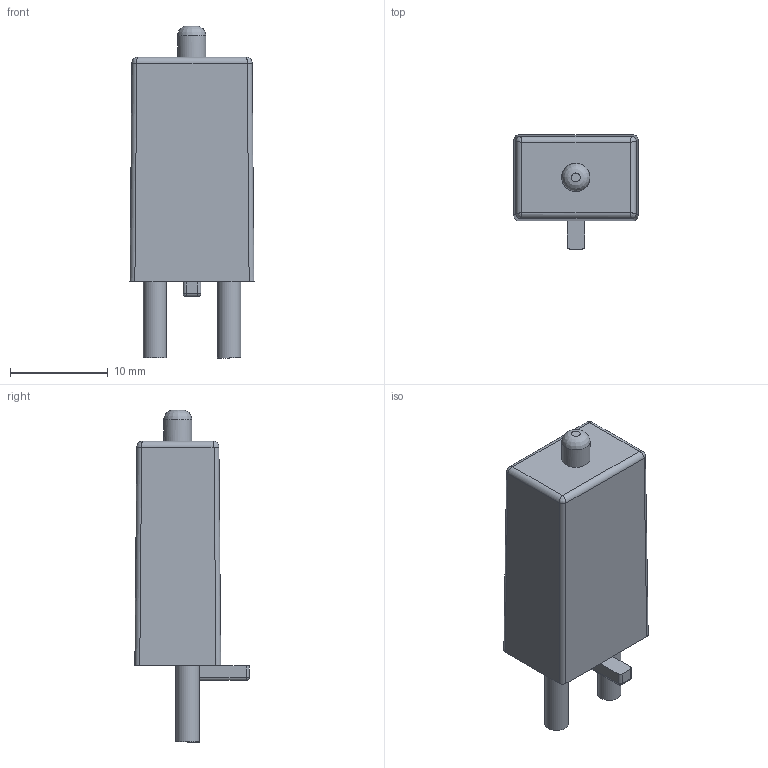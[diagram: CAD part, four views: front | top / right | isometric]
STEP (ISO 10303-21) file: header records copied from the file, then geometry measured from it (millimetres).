
FILE_DESCRIPTION(/* description */ ('Unknown'),/* implementation_level */ '2;1');
FILE_NAME(/* name */ '9980',/* time_stamp */ '2018-05-28T10:55:34+02:00',/* author */ ('Unknown'),/* organization */ ('Unknown'),/* preprocessor_version */ 'ST-DEVELOPER v16.7',/* originating_system */ 'DEX',/* authorisation */ $);
FILE_SCHEMA (('AUTOMOTIVE_DESIGN {1 0 10303 214 3 1 1}'));
Length unit declared in the file: millimetre
Products named in the file (2): 9980; top
Assembly tree (1 placements, depth 2):
  9980
    top
Bounding box: 12.7 x 11.7 x 34 mm (x, y, z)
Surface area: 1325.5 mm2 (no closed solid volume)
Topology: 0 solids, 1 shells, 44 faces, 119 edges, 71 vertices
Faces by surface type: cylinder 19, plane 16, bspline 5, sphere 4
Full cylindrical faces by diameter (mm): 2.4 x2, 2.9 x1
Entity records: 2135 total; most frequent: CARTESIAN_POINT 834, ORIENTED_EDGE 190, DIRECTION 174, EDGE_CURVE 105, VERTEX_POINT 69, LINE 58, VECTOR 58, AXIS2_PLACEMENT_3D 58
